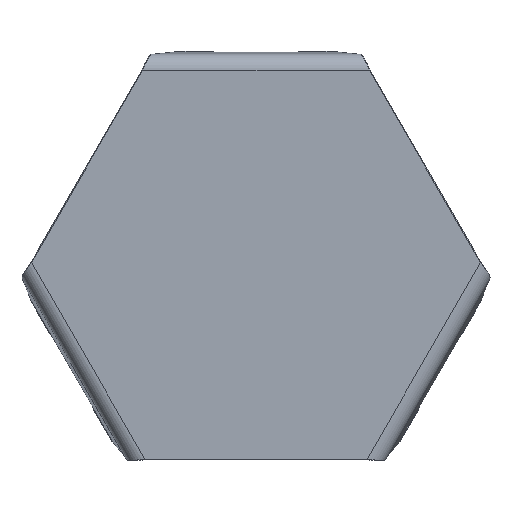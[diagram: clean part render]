
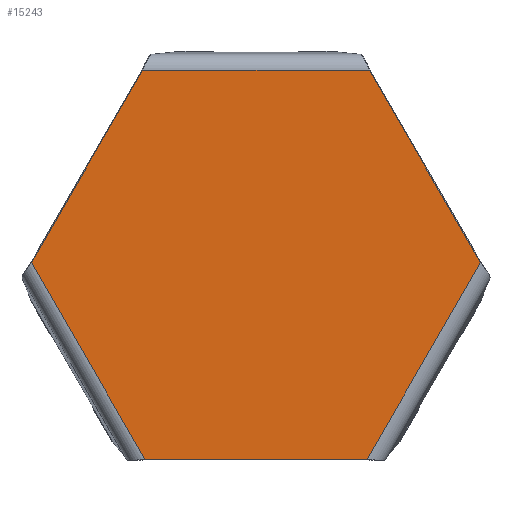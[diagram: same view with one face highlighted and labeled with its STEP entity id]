
A CAD part, top view. The second image highlights one B-rep face of the part: STEP entity #15243.
In plain terms, the highlighted planar face has unit normal (0, 0, 1).
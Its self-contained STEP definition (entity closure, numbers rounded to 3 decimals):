
#10591=CARTESIAN_POINT('',(175.9,299.55,0.0));
#10592=VERTEX_POINT('',#10591);
#10593=CARTESIAN_POINT('',(347.368,2.559,0.0));
#10594=VERTEX_POINT('',#10593);
#10595=CARTESIAN_POINT('',(175.9,299.55,0.0));
#10596=DIRECTION('',(0.5,-0.866,0.0));
#10597=VECTOR('',#10596,342.937);
#10598=LINE('',#10595,#10597);
#10599=EDGE_CURVE('',#10592,#10594,#10598,.T.);
#11073=CARTESIAN_POINT('',(-347.661,2.166,0.));
#11074=VERTEX_POINT('',#11073);
#11503=CARTESIAN_POINT('',(171.468,-302.109,0.0));
#11504=VERTEX_POINT('',#11503);
#11505=CARTESIAN_POINT('',(-171.468,-302.109,0.0));
#11506=VERTEX_POINT('',#11505);
#11507=CARTESIAN_POINT('',(171.468,-302.109,0.0));
#11508=DIRECTION('',(-1.0,0.0,0.0));
#11509=VECTOR('',#11508,342.937);
#11510=LINE('',#11507,#11509);
#11511=EDGE_CURVE('',#11504,#11506,#11510,.T.);
#12085=CARTESIAN_POINT('',(-171.955,-302.166,0.));
#12086=VERTEX_POINT('',#12085);
#12418=CARTESIAN_POINT('',(-171.468,-302.109,0.0));
#12419=CARTESIAN_POINT('',(-171.487,-302.111,0.0));
#12420=CARTESIAN_POINT('',(-171.507,-302.113,0.0));
#12421=CARTESIAN_POINT('',(-171.669,-302.132,0.0));
#12422=CARTESIAN_POINT('',(-171.812,-302.149,0.0));
#12423=CARTESIAN_POINT('',(-171.955,-302.166,0.0));
#12424=B_SPLINE_CURVE_WITH_KNOTS('',3,(#12418,#12419,#12420,#12421,#12422,#12423),.UNSPECIFIED.,.F.,.U.,(4,2,4),(-1.481,-1.476,-1.432),.UNSPECIFIED.);
#12425=EDGE_CURVE('',#11506,#12086,#12424,.T.);
#12599=CARTESIAN_POINT('',(171.955,-302.166,0.));
#12600=VERTEX_POINT('',#12599);
#12707=CARTESIAN_POINT('',(171.955,-302.166,0.0));
#12708=CARTESIAN_POINT('',(171.812,-302.149,0.0));
#12709=CARTESIAN_POINT('',(171.669,-302.132,0.0));
#12710=CARTESIAN_POINT('',(171.507,-302.113,0.0));
#12711=CARTESIAN_POINT('',(171.488,-302.111,0.0));
#12712=CARTESIAN_POINT('',(171.468,-302.109,0.0));
#12713=B_SPLINE_CURVE_WITH_KNOTS('',3,(#12707,#12708,#12709,#12710,#12711,#12712),.UNSPECIFIED.,.F.,.U.,(4,2,4),(-0.043,0.0,0.006),.UNSPECIFIED.);
#12714=EDGE_CURVE('',#12600,#11504,#12713,.T.);
#13129=CARTESIAN_POINT('',(-347.368,2.559,0.0));
#13130=VERTEX_POINT('',#13129);
#13131=CARTESIAN_POINT('',(-347.661,2.166,0.0));
#13132=CARTESIAN_POINT('',(-347.575,2.281,0.0));
#13133=CARTESIAN_POINT('',(-347.489,2.397,0.0));
#13134=CARTESIAN_POINT('',(-347.391,2.528,0.0));
#13135=CARTESIAN_POINT('',(-347.38,2.543,0.0));
#13136=CARTESIAN_POINT('',(-347.368,2.559,0.0));
#13137=B_SPLINE_CURVE_WITH_KNOTS('',3,(#13131,#13132,#13133,#13134,#13135,#13136),.UNSPECIFIED.,.F.,.U.,(4,2,4),(-0.043,0.0,0.006),.UNSPECIFIED.);
#13138=EDGE_CURVE('',#11074,#13130,#13137,.T.);
#13160=CARTESIAN_POINT('',(-175.9,299.55,0.0));
#13161=VERTEX_POINT('',#13160);
#13162=CARTESIAN_POINT('',(-347.368,2.559,0.0));
#13163=DIRECTION('',(0.5,0.866,0.0));
#13164=VECTOR('',#13163,342.937);
#13165=LINE('',#13162,#13164);
#13166=EDGE_CURVE('',#13130,#13161,#13165,.T.);
#13840=CARTESIAN_POINT('',(-175.706,300.,0.));
#13841=VERTEX_POINT('',#13840);
#13909=CARTESIAN_POINT('',(-175.9,299.55,0.0));
#13910=CARTESIAN_POINT('',(-175.892,299.568,0.0));
#13911=CARTESIAN_POINT('',(-175.885,299.586,0.0));
#13912=CARTESIAN_POINT('',(-175.82,299.736,0.0));
#13913=CARTESIAN_POINT('',(-175.763,299.868,0.0));
#13914=CARTESIAN_POINT('',(-175.706,300.,0.0));
#13915=B_SPLINE_CURVE_WITH_KNOTS('',3,(#13909,#13910,#13911,#13912,#13913,#13914),.UNSPECIFIED.,.F.,.U.,(4,2,4),(-1.464,-1.459,-1.415),.UNSPECIFIED.);
#13916=EDGE_CURVE('',#13161,#13841,#13915,.T.);
#14069=CARTESIAN_POINT('',(347.661,2.166,0.));
#14070=VERTEX_POINT('',#14069);
#14345=CARTESIAN_POINT('',(347.368,2.559,0.0));
#14346=CARTESIAN_POINT('',(347.38,2.543,0.0));
#14347=CARTESIAN_POINT('',(347.391,2.527,0.0));
#14348=CARTESIAN_POINT('',(347.489,2.396,0.0));
#14349=CARTESIAN_POINT('',(347.575,2.281,0.0));
#14350=CARTESIAN_POINT('',(347.661,2.166,0.0));
#14351=B_SPLINE_CURVE_WITH_KNOTS('',3,(#14345,#14346,#14347,#14348,#14349,#14350),.UNSPECIFIED.,.F.,.U.,(4,2,4),(-1.485,-1.479,-1.436),.UNSPECIFIED.);
#14352=EDGE_CURVE('',#10594,#14070,#14351,.T.);
#14482=CARTESIAN_POINT('',(175.706,300.,0.));
#14483=VERTEX_POINT('',#14482);
#14552=CARTESIAN_POINT('',(175.706,300.,0.0));
#14553=CARTESIAN_POINT('',(175.763,299.868,0.0));
#14554=CARTESIAN_POINT('',(175.82,299.736,0.0));
#14555=CARTESIAN_POINT('',(175.884,299.586,0.0));
#14556=CARTESIAN_POINT('',(175.892,299.568,0.0));
#14557=CARTESIAN_POINT('',(175.9,299.55,0.0));
#14558=B_SPLINE_CURVE_WITH_KNOTS('',3,(#14552,#14553,#14554,#14555,#14556,#14557),.UNSPECIFIED.,.F.,.U.,(4,2,4),(-0.043,0.0,0.006),.UNSPECIFIED.);
#14559=EDGE_CURVE('',#14483,#10592,#14558,.T.);
#15180=CARTESIAN_POINT('',(-347.661,2.166,0.0));
#15181=DIRECTION('',(0.5,-0.866,0.0));
#15182=VECTOR('',#15181,351.412);
#15183=LINE('',#15180,#15182);
#15184=EDGE_CURVE('',#11074,#12086,#15183,.T.);
#15210=CARTESIAN_POINT('',(171.955,-302.166,0.0));
#15211=DIRECTION('',(0.5,0.866,0.0));
#15212=VECTOR('',#15211,351.411);
#15213=LINE('',#15210,#15212);
#15214=EDGE_CURVE('',#12600,#14070,#15213,.T.);
#15219=CARTESIAN_POINT('',(610.306,-352.359,0.0));
#15220=DIRECTION('',(0.0,0.0,1.0));
#15221=DIRECTION('',(1.0,0.0,0.0));
#15222=AXIS2_PLACEMENT_3D('',#15219,#15220,#15221);
#15223=PLANE('',#15222);
#15224=ORIENTED_EDGE('',*,*,#12425,.F.);
#15225=ORIENTED_EDGE('',*,*,#11511,.F.);
#15226=ORIENTED_EDGE('',*,*,#12714,.F.);
#15227=ORIENTED_EDGE('',*,*,#15214,.T.);
#15228=ORIENTED_EDGE('',*,*,#14352,.F.);
#15229=ORIENTED_EDGE('',*,*,#10599,.F.);
#15230=ORIENTED_EDGE('',*,*,#14559,.F.);
#15231=CARTESIAN_POINT('',(175.706,300.,0.0));
#15232=DIRECTION('',(-1.0,0.0,0.0));
#15233=VECTOR('',#15232,351.411);
#15234=LINE('',#15231,#15233);
#15235=EDGE_CURVE('',#14483,#13841,#15234,.T.);
#15236=ORIENTED_EDGE('',*,*,#15235,.T.);
#15237=ORIENTED_EDGE('',*,*,#13916,.F.);
#15238=ORIENTED_EDGE('',*,*,#13166,.F.);
#15239=ORIENTED_EDGE('',*,*,#13138,.F.);
#15240=ORIENTED_EDGE('',*,*,#15184,.T.);
#15241=EDGE_LOOP('',(#15224,#15225,#15226,#15227,#15228,#15229,#15230,#15236,#15237,#15238,#15239,#15240));
#15242=FACE_OUTER_BOUND('',#15241,.T.);
#15243=ADVANCED_FACE('',(#15242),#15223,.T.);
